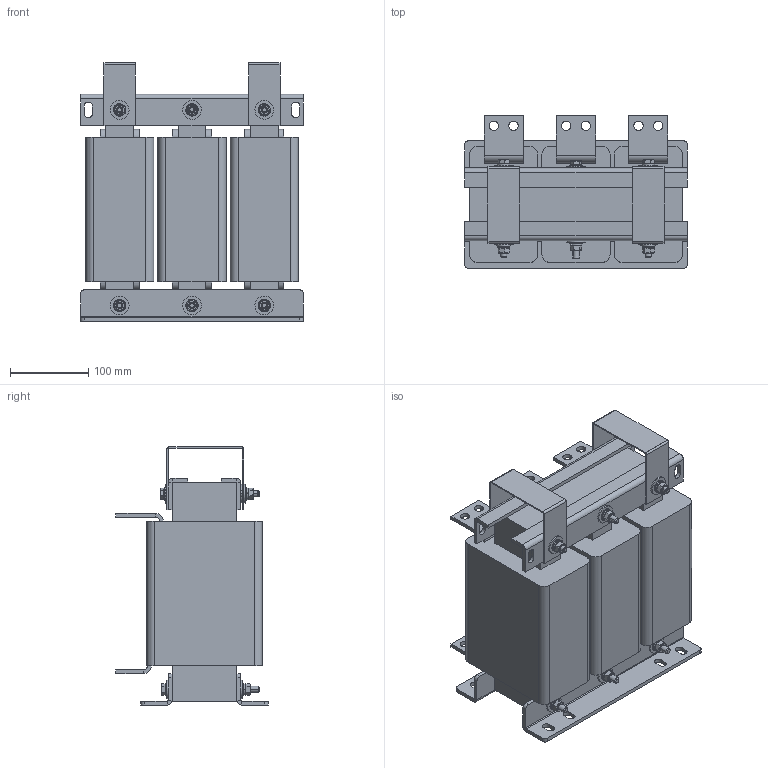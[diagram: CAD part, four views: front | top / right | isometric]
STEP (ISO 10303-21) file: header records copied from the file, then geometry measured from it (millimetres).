
FILE_DESCRIPTION (( 'STEP AP203' ), '1' );
FILE_NAME ('填蝾痦 漯铖皴朦 _ IMF-250_480-4.STEP', '2026-03-20T14:04:54', ( '' ), ( '' ), 'SwSTEP 2.0', 'SolidWorks 2021', '' );
FILE_SCHEMA (( 'CONFIG_CONTROL_DESIGN' ));
Length unit declared in the file: millimetre
Products named in the file (14): Ãàéêà DIN 934_Œ8; 填蝾痦 漯铖皴朦 _ IMF-250_480-4; Êëåììà âåðõíÿÿ_250-280; Øàéáà ïëîñêàÿ DIN 9021_Œ8 ¯®«¨ ¬¨¤; Ñêîáà òàêåëàæíàÿ_250-280; 栫謱毿膻獥250-280; Êëåììà íèæíÿÿ_250-280; 咈櫡_250-280; Êàòóøêà ñ êëåììàìè_250-280; 忺覷齆趌250-280; Øàéáà ïðóæèííàÿ DIN 127 (A)_Œ8; Áîëò DIN 933_Œ8å120 (-); 赶鎀鍧 瀔鳽鳻膼嶱250-280; Øàéáà ïëîñêàÿ DIN 125 (A)_Œ8
Assembly tree (55 placements, depth 3):
  填蝾痦 漯铖皴朦 _ IMF-250_480-4
    栫謱毿膻獥250-280
    咈櫡_250-280  x2
    Êàòóøêà ñ êëåììàìè_250-280  x3
      忺覷齆趌250-280
      Êëåììà íèæíÿÿ_250-280
      Êëåììà âåðõíÿÿ_250-280
    赶鎀鍧 瀔鳽鳻膼嶱250-280  x2
    Ñêîáà òàêåëàæíàÿ_250-280  x2
    Áîëò DIN 933_Œ8å120 (-)  x6
    Øàéáà ïëîñêàÿ DIN 125 (A)_Œ8  x12
    Øàéáà ïëîñêàÿ DIN 9021_Œ8 ¯®«¨ ¬¨¤  x12
    Øàéáà ïðóæèííàÿ DIN 127 (A)_Œ8  x6
    Ãàéêà DIN 934_Œ8  x6
Bounding box: 285 x 195 x 330 mm (x, y, z)
Volume: 9092458.6 mm3; surface area: 995867 mm2
Topology: 58 solids, 58 shells, 928 faces, 2096 edges, 1302 vertices
Faces by surface type: plane 434, cylinder 290, cone 192, torus 12
Entity records: 10392 total; most frequent: CARTESIAN_POINT 1535, DIRECTION 1391, ORIENTED_EDGE 1204, EDGE_CURVE 602, AXIS2_PLACEMENT_3D 513, VERTEX_POINT 377, LINE 365, VECTOR 365
